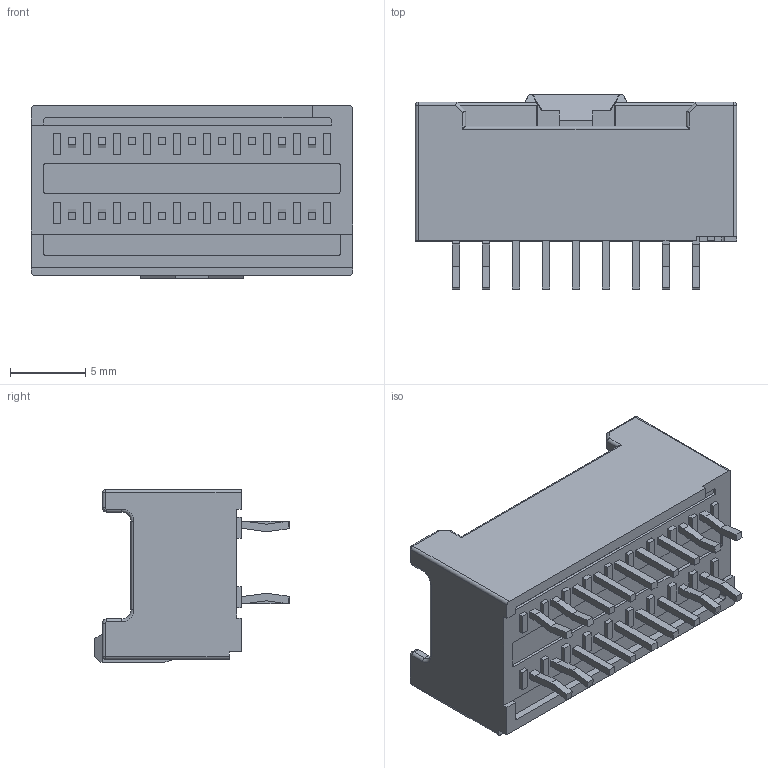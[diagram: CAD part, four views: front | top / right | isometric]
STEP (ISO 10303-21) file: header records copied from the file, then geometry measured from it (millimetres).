
FILE_DESCRIPTION((''),'2;1');
FILE_NAME('559171830','2017-05-04T',('ksrinivasara'),(''),'PRO/ENGINEER BY PARAMETRIC TECHNOLOGY CORPORATION, 2012310','PRO/ENGINEER BY PARAMETRIC TECHNOLOGY CORPORATION, 2012310','');
FILE_SCHEMA(('CONFIG_CONTROL_DESIGN'));
Length unit declared in the file: millimetre
Products named in the file (1): 559171830
Bounding box: 21.4 x 12.95 x 11.5 mm (x, y, z)
Volume: 920.9 mm3; surface area: 1774.1 mm2
Topology: 1 solids, 1 shells, 529 faces, 1380 edges, 911 vertices
Faces by surface type: plane 450, cylinder 49, cone 18, bspline 4, torus 4, sphere 4
Entity records: 16105 total; most frequent: CARTESIAN_POINT 3003, ORIENTED_EDGE 2682, DIRECTION 2566, EDGE_CURVE 1341, VECTOR 1222, LINE 1222, VERTEX_POINT 869, AXIS2_PLACEMENT_3D 672
